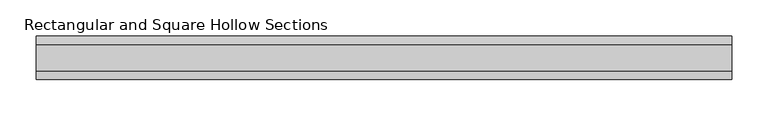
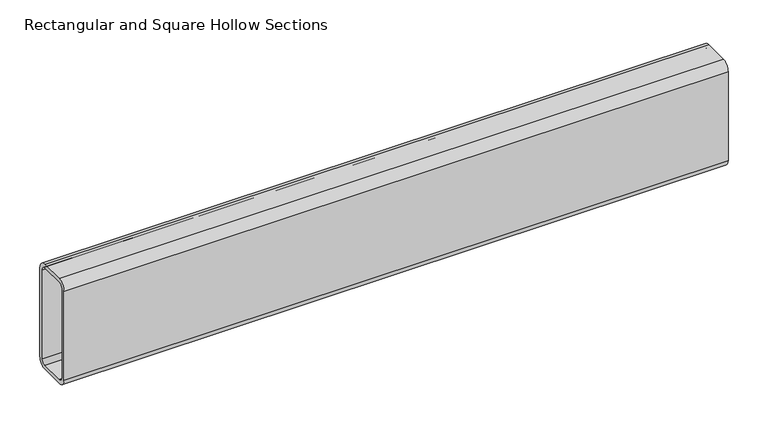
"""IFC4 building model written with IfcOpenShell, lengths in millimetres: beam geometry, Rectangular and Square Hollow Sections : TREC160x60x6."""

from ifc_helpers import new_model, si_unit, point, frame, frame_2d, origin, place, context, project, spatial, polyline, circle_curve, trimmed, segment, composite_curve, outline, extrude, source, transform, mapped, element, save


def rectangular_and_square_hollow_sections_25e7b042(model_context):
    return source(origin(), model_context, "Body", "SweptSolid", [
        extrude(outline(composite_curve([segment(polyline([(30.0, 68.0), (30.0, -68.0)]), True, "CONTINUOUS"), segment(trimmed(circle_curve(frame_2d((18.0, -68.0)), 12.0), [point((30.0, -68.0))], [point((18.0, -80.0))], False, "CARTESIAN"), True, "CONTINUOUS"), segment(polyline([(18.0, -80.0), (-18.0, -80.0)]), True, "CONTINUOUS"), segment(trimmed(circle_curve(frame_2d((-18.0, -68.0)), 12.0), [point((-18.0, -80.0))], [point((-30.0, -68.0))], False, "CARTESIAN"), True, "CONTINUOUS"), segment(polyline([(-30.0, -68.0), (-30.0, 68.0)]), True, "CONTINUOUS"), segment(trimmed(circle_curve(frame_2d((-18.0, 68.0)), 12.0), [point((-30.0, 68.0))], [point((-18.0, 80.0))], False, "CARTESIAN"), True, "CONTINUOUS"), segment(polyline([(-18.0, 80.0), (18.0, 80.0)]), True, "CONTINUOUS"), segment(trimmed(circle_curve(frame_2d((18.0, 68.0)), 12.0), [point((18.0, 80.0))], [point((30.0, 68.0))], False, "CARTESIAN"), True, "CONTINUOUS")], self_intersect=False), holes=[composite_curve([segment(trimmed(circle_curve(frame_2d((-18.0, 68.0)), 6.0), [point((-18.0, 74.0))], [point((-24.0, 68.0))], True, "CARTESIAN"), True, "CONTINUOUS"), segment(polyline([(-24.0, 68.0), (-24.0, -68.0)]), True, "CONTINUOUS"), segment(trimmed(circle_curve(frame_2d((-18.0, -68.0)), 6.0), [point((-24.0, -68.0))], [point((-18.0, -74.0))], True, "CARTESIAN"), True, "CONTINUOUS"), segment(polyline([(-18.0, -74.0), (18.0, -74.0)]), True, "CONTINUOUS"), segment(trimmed(circle_curve(frame_2d((18.0, -68.0)), 6.0), [point((18.0, -74.0))], [point((24.0, -68.0))], True, "CARTESIAN"), True, "CONTINUOUS"), segment(polyline([(24.0, -68.0), (24.0, 68.0)]), True, "CONTINUOUS"), segment(trimmed(circle_curve(frame_2d((18.0, 68.0)), 6.0), [point((24.0, 68.0))], [point((18.0, 74.0))], True, "CARTESIAN"), True, "CONTINUOUS"), segment(polyline([(18.0, 74.0), (-18.0, 74.0)]), True, "CONTINUOUS")], self_intersect=False)]), frame((-494.5, 0.0, 0.0), z_axis=(1.0, 0.0, 0.0), x_axis=(0.0, 1.0, 0.0)), (0.0, 0.0, 1.0), 959.0),
    ])


if __name__ == "__main__":
    model = new_model("IFC4")
    model_context = context("Model", 3, world=origin())
    ifc_project = project(units=[si_unit("LENGTHUNIT", "METRE", prefix="MILLI")], contexts=[model_context])
    site = spatial("IfcSite", under=ifc_project)
    building = spatial("IfcBuilding", under=site)
    placement = place(None, origin())
    rectangular_and_square_hollow_sections_shape = rectangular_and_square_hollow_sections_25e7b042(model_context)
    element("IfcBeam", 1, ObjectType="Rectangular and Square Hollow Sections : TREC160x60x6", at=placement, inside=building, context=model_context, shape_type="MappedRepresentation", body=[
        mapped(rectangular_and_square_hollow_sections_shape, transform((0.0, 0.0, 0.0), x_axis=(1.0, 0.0, 0.0), y_axis=(0.0, 1.0, 0.0), z_axis=(0.0, 0.0, 1.0))),
    ])
    save(model, "model.ifc")
